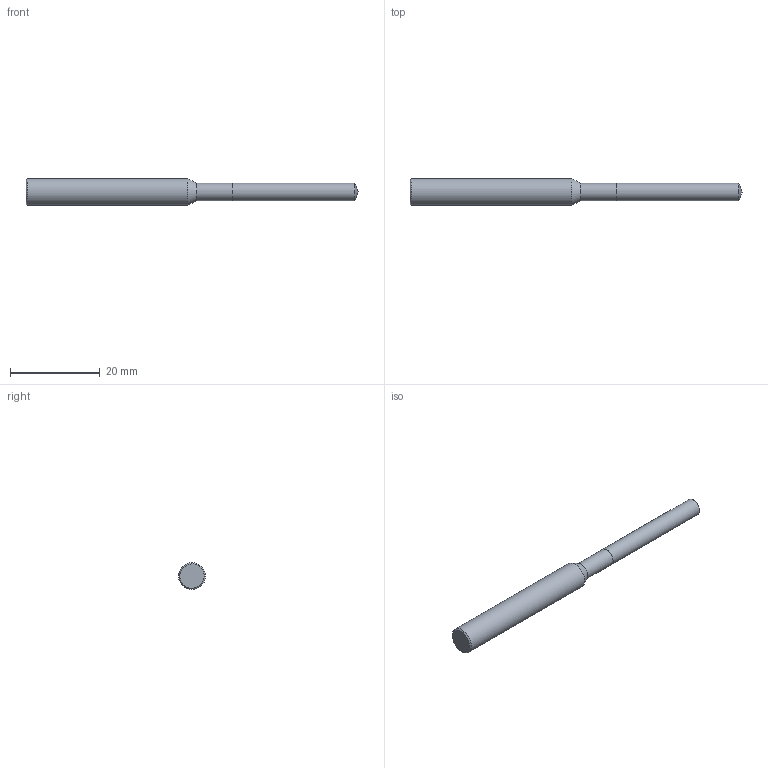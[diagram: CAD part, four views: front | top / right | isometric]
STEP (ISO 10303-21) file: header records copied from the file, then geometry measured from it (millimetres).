
FILE_DESCRIPTION(('STEP'), '1');
FILE_NAME('255570.0095.stp', '2019-03-13T18:06:17', ('TDM Systems GmbH'), ('TDM Systems GmbH'), 'HarmonyWare STEP v2.0.10 Express v3.0.0.0', 'TDM', 'Unknown');
FILE_SCHEMA(('AUTOMOTIVE_DESIGN'));
Length unit declared in the file: millimetre
Products named in the file (1): NONE
Bounding box: 74 x 6 x 5.99 mm (x, y, z)
Volume: 1485.3 mm3; surface area: 1209.6 mm2
Topology: 2 solids, 2 shells, 9 faces, 18 edges, 12 vertices
Faces by surface type: bspline 9
Entity records: 366 total; most frequent: CARTESIAN_POINT 211, ORIENTED_EDGE 26, EDGE_CURVE 13, B_SPLINE_CURVE_WITH_KNOTS 10, ADVANCED_FACE 9, FACE_OUTER_BOUND 9, EDGE_LOOP 9, VERTEX_POINT 8
